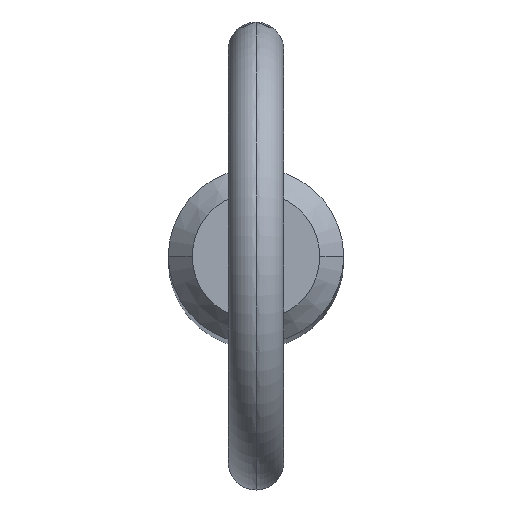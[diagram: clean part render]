
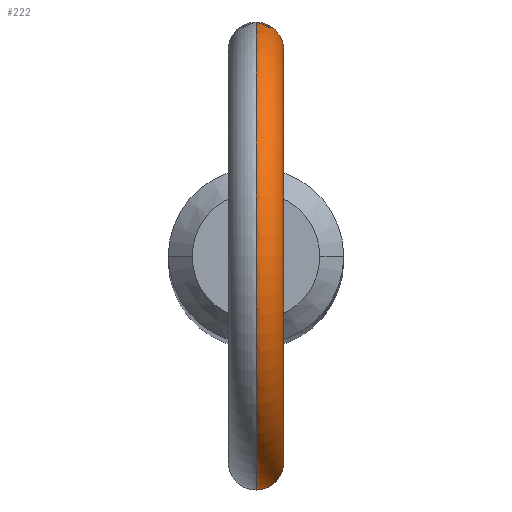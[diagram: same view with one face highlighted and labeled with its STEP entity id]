
A CAD part, top view. The second image highlights one B-rep face of the part: STEP entity #222.
In plain terms, the highlighted toroidal (fillet/blend) face has major radius 11.2 mm and minor radius 1.5 mm.
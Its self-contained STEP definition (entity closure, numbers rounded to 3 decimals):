
#10 = DIRECTION ( 'NONE',  ( 1., 0., 0. ) ) ;
#21 = ORIENTED_EDGE ( 'NONE', *, *, #84, .T. ) ;
#23 = EDGE_CURVE ( 'NONE', #56, #94, #405, .T. ) ;
#27 = CIRCLE ( 'NONE', #47, 12.7 ) ;
#41 = CARTESIAN_POINT ( 'NONE',  ( 0.771, 4.698, 133.475 ) ) ;
#42 = CARTESIAN_POINT ( 'NONE',  ( 0.411, 4.743, 130.477 ) ) ;
#47 = AXIS2_PLACEMENT_3D ( 'NONE', #128, #240, #483 ) ;
#53 = B_SPLINE_CURVE_WITH_KNOTS ( 'NONE', 3,
 ( #454, #455, #508, #378, #504, #153, #155, #263, #301, #259, #108, #426, #228, #467, #230, #266, #300, #341, #104, #85, #354, #474, #308, #513, #429, #317, #127, #116, #125, #469 ),
 .UNSPECIFIED., .F., .F.,
 ( 4, 2, 2, 2, 2, 2, 2, 2, 2, 2, 2, 2, 2, 2, 4 ),
 ( 0.004, 0.005, 0.005, 0.005, 0.006, 0.006, 0.007, 0.007, 0.007, 0.007, 0.008, 0.008, 0.009, 0.009, 0.009 ),
 .UNSPECIFIED. ) ;
#55 = VERTEX_POINT ( 'NONE', #267 ) ;
#56 = VERTEX_POINT ( 'NONE', #280 ) ;
#76 = CARTESIAN_POINT ( 'NONE',  ( 1.484, 4.523, 131.628 ) ) ;
#77 = CARTESIAN_POINT ( 'NONE',  ( 1.188, 4.611, 133.027 ) ) ;
#84 = EDGE_CURVE ( 'NONE', #56, #383, #27, .T. ) ;
#85 = CARTESIAN_POINT ( 'NONE',  ( 1.385, -4.554, 131.332 ) ) ;
#87 = CARTESIAN_POINT ( 'NONE',  ( 0., 0., 142.2 ) ) ;
#89 = AXIS2_PLACEMENT_3D ( 'NONE', #298, #150, #188 ) ;
#94 = VERTEX_POINT ( 'NONE', #319 ) ;
#104 = CARTESIAN_POINT ( 'NONE',  ( 1.45, -4.534, 131.528 ) ) ;
#108 = CARTESIAN_POINT ( 'NONE',  ( 1.293, -4.582, 132.842 ) ) ;
#116 = CARTESIAN_POINT ( 'NONE',  ( 0.208, -4.757, 130.436 ) ) ;
#125 = CARTESIAN_POINT ( 'NONE',  ( 0.105, -4.76, 130.426 ) ) ;
#127 = CARTESIAN_POINT ( 'NONE',  ( 0.411, -4.743, 130.477 ) ) ;
#128 = CARTESIAN_POINT ( 'NONE',  ( 0., 0., 142.2 ) ) ;
#129 = CARTESIAN_POINT ( 'NONE',  ( 1.487, 4.522, 132.253 ) ) ;
#136 = ORIENTED_EDGE ( 'NONE', *, *, #23, .F. ) ;
#150 = DIRECTION ( 'NONE',  ( 1., 0., 0. ) ) ;
#153 = CARTESIAN_POINT ( 'NONE',  ( 0.687, -4.711, 133.535 ) ) ;
#155 = CARTESIAN_POINT ( 'NONE',  ( 0.77, -4.698, 133.475 ) ) ;
#164 = CARTESIAN_POINT ( 'NONE',  ( 0.104, 4.76, 130.426 ) ) ;
#167 = CARTESIAN_POINT ( 'NONE',  ( 0.415, 4.745, 133.688 ) ) ;
#188 = DIRECTION ( 'NONE',  ( 0., 0., -1. ) ) ;
#206 = CARTESIAN_POINT ( 'NONE',  ( 1.239, 4.596, 131.059 ) ) ;
#209 = CARTESIAN_POINT ( 'NONE',  ( 0.207, 4.757, 130.436 ) ) ;
#222 = ADVANCED_FACE ( 'NONE', ( #333 ), #473, .T. ) ;
#228 = CARTESIAN_POINT ( 'NONE',  ( 1.434, -4.539, 132.454 ) ) ;
#230 = CARTESIAN_POINT ( 'NONE',  ( 1.492, -4.52, 132.148 ) ) ;
#238 = CARTESIAN_POINT ( 'NONE',  ( 1.508, 4.515, 131.837 ) ) ;
#239 = CARTESIAN_POINT ( 'NONE',  ( 1.441, 4.537, 132.459 ) ) ;
#240 = DIRECTION ( 'NONE',  ( 1., 0., 0. ) ) ;
#243 = AXIS2_PLACEMENT_3D ( 'NONE', #87, #10, #486 ) ;
#259 = CARTESIAN_POINT ( 'NONE',  ( 1.19, -4.611, 133.024 ) ) ;
#263 = CARTESIAN_POINT ( 'NONE',  ( 0.925, -4.67, 133.339 ) ) ;
#266 = CARTESIAN_POINT ( 'NONE',  ( 1.503, -4.517, 131.94 ) ) ;
#267 = CARTESIAN_POINT ( 'NONE',  ( 0., -4.76, 133.748 ) ) ;
#276 = CARTESIAN_POINT ( 'NONE',  ( 0.996, 4.655, 133.266 ) ) ;
#278 = EDGE_LOOP ( 'NONE', ( #136, #21, #358, #320 ) ) ;
#280 = CARTESIAN_POINT ( 'NONE',  ( 0., 4.76, 130.426 ) ) ;
#298 = CARTESIAN_POINT ( 'NONE',  ( 0., 0., 142.2 ) ) ;
#300 = CARTESIAN_POINT ( 'NONE',  ( 1.499, -4.518, 131.837 ) ) ;
#301 = CARTESIAN_POINT ( 'NONE',  ( 0.997, -4.655, 133.264 ) ) ;
#308 = CARTESIAN_POINT ( 'NONE',  ( 1.178, -4.613, 130.976 ) ) ;
#314 = CARTESIAN_POINT ( 'NONE',  ( 0., 4.76, 133.748 ) ) ;
#317 = CARTESIAN_POINT ( 'NONE',  ( 0.512, -4.733, 130.508 ) ) ;
#319 = CARTESIAN_POINT ( 'NONE',  ( 0., 4.76, 133.748 ) ) ;
#320 = ORIENTED_EDGE ( 'NONE', *, *, #440, .F. ) ;
#333 = FACE_OUTER_BOUND ( 'NONE', #278, .T. ) ;
#341 = CARTESIAN_POINT ( 'NONE',  ( 1.473, -4.526, 131.631 ) ) ;
#352 = CARTESIAN_POINT ( 'NONE',  ( 0.511, 4.733, 130.508 ) ) ;
#354 = CARTESIAN_POINT ( 'NONE',  ( 1.344, -4.567, 131.239 ) ) ;
#356 = CARTESIAN_POINT ( 'NONE',  ( 0.795, 4.697, 130.628 ) ) ;
#358 = ORIENTED_EDGE ( 'NONE', *, *, #459, .F. ) ;
#375 = CIRCLE ( 'NONE', #89, 9.7 ) ;
#378 = CARTESIAN_POINT ( 'NONE',  ( 0.409, -4.743, 133.678 ) ) ;
#383 = VERTEX_POINT ( 'NONE', #496 ) ;
#392 = CARTESIAN_POINT ( 'NONE',  ( 0.685, 4.711, 133.536 ) ) ;
#399 = CARTESIAN_POINT ( 'NONE',  ( 0.208, 4.76, 133.748 ) ) ;
#400 = CARTESIAN_POINT ( 'NONE',  ( 1.343, 4.567, 131.237 ) ) ;
#405 = B_SPLINE_CURVE_WITH_KNOTS ( 'NONE', 3,
 ( #480, #164, #209, #42, #352, #356, #432, #475, #206, #400, #479, #76, #238, #129, #239, #522, #77, #276, #517, #41, #392, #167, #399, #314 ),
 .UNSPECIFIED., .F., .F.,
 ( 4, 2, 2, 2, 2, 2, 2, 2, 2, 2, 2, 4 ),
 ( 0.001, 0.001, 0.001, 0.002, 0.002, 0.002, 0.003, 0.004, 0.004, 0.005, 0.005, 0.006 ),
 .UNSPECIFIED. ) ;
#426 = CARTESIAN_POINT ( 'NONE',  ( 1.404, -4.548, 132.553 ) ) ;
#429 = CARTESIAN_POINT ( 'NONE',  ( 0.797, -4.697, 130.629 ) ) ;
#432 = CARTESIAN_POINT ( 'NONE',  ( 0.968, 4.663, 130.749 ) ) ;
#440 = EDGE_CURVE ( 'NONE', #94, #55, #375, .T. ) ;
#454 = CARTESIAN_POINT ( 'NONE',  ( 0., -4.76, 133.748 ) ) ;
#455 = CARTESIAN_POINT ( 'NONE',  ( 0.104, -4.76, 133.748 ) ) ;
#459 = EDGE_CURVE ( 'NONE', #55, #383, #53, .T. ) ;
#467 = CARTESIAN_POINT ( 'NONE',  ( 1.478, -4.525, 132.252 ) ) ;
#469 = CARTESIAN_POINT ( 'NONE',  ( 0., -4.76, 130.426 ) ) ;
#473 = TOROIDAL_SURFACE ( 'NONE', #243, 11.2, 1.5 ) ;
#474 = CARTESIAN_POINT ( 'NONE',  ( 1.24, -4.596, 131.06 ) ) ;
#475 = CARTESIAN_POINT ( 'NONE',  ( 1.177, 4.613, 130.975 ) ) ;
#479 = CARTESIAN_POINT ( 'NONE',  ( 1.385, 4.554, 131.33 ) ) ;
#480 = CARTESIAN_POINT ( 'NONE',  ( 0., 4.76, 130.426 ) ) ;
#483 = DIRECTION ( 'NONE',  ( 0., 0., -1. ) ) ;
#486 = DIRECTION ( 'NONE',  ( 0., 0., -1. ) ) ;
#496 = CARTESIAN_POINT ( 'NONE',  ( 0., -4.76, 130.426 ) ) ;
#504 = CARTESIAN_POINT ( 'NONE',  ( 0.506, -4.734, 133.637 ) ) ;
#508 = CARTESIAN_POINT ( 'NONE',  ( 0.209, -4.756, 133.734 ) ) ;
#513 = CARTESIAN_POINT ( 'NONE',  ( 0.97, -4.662, 130.75 ) ) ;
#517 = CARTESIAN_POINT ( 'NONE',  ( 0.925, 4.67, 133.34 ) ) ;
#522 = CARTESIAN_POINT ( 'NONE',  ( 1.292, 4.582, 132.844 ) ) ;
